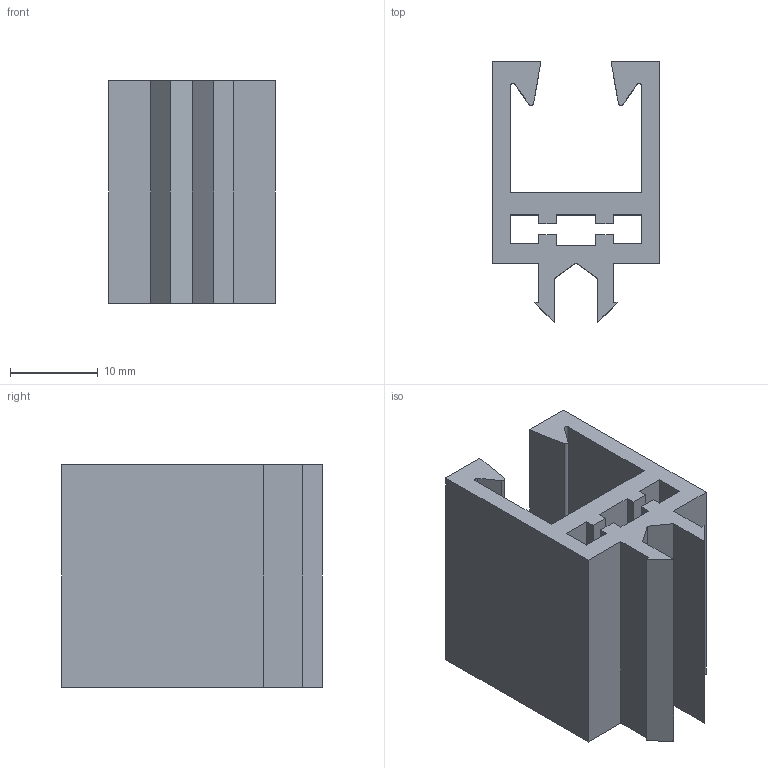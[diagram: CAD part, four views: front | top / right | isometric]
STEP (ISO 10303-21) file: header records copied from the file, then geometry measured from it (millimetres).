
FILE_DESCRIPTION((''),'2;1');
FILE_NAME('C:\Documents and Settings\Administrator\My Documents\Andys Backup Data\ANDY''S INVENTOR\INVENTOR LIBRARIES\MINITEC INVENTOR LIBRARIES\FITTING OF PANEL ELEMENTS ASSEMBLY POSSIBILITIES\A PACKED FILES\STEP FILES\22.1107_1 PNL CLAMP PROF GRAY.stp','2010-06-28T13:56:20',('Administrator'),(''),'Autodesk Inventor 2009','Autodesk Inventor 2009','');
FILE_SCHEMA(('CONFIG_CONTROL_DESIGN'));
Length unit declared in the file: inch
Products named in the file (1): 22.1107_1 PNL CLAMP PROF GRAY
Bounding box: 19 x 29.75 x 25.4 mm (x, y, z)
Volume: 5565.7 mm3; surface area: 5576.3 mm2
Topology: 1 solids, 1 shells, 49 faces, 141 edges, 94 vertices
Faces by surface type: plane 45, cylinder 4
Entity records: 1606 total; most frequent: CARTESIAN_POINT 285, ORIENTED_EDGE 282, DIRECTION 249, EDGE_CURVE 141, VECTOR 133, LINE 133, VERTEX_POINT 94, AXIS2_PLACEMENT_3D 58
